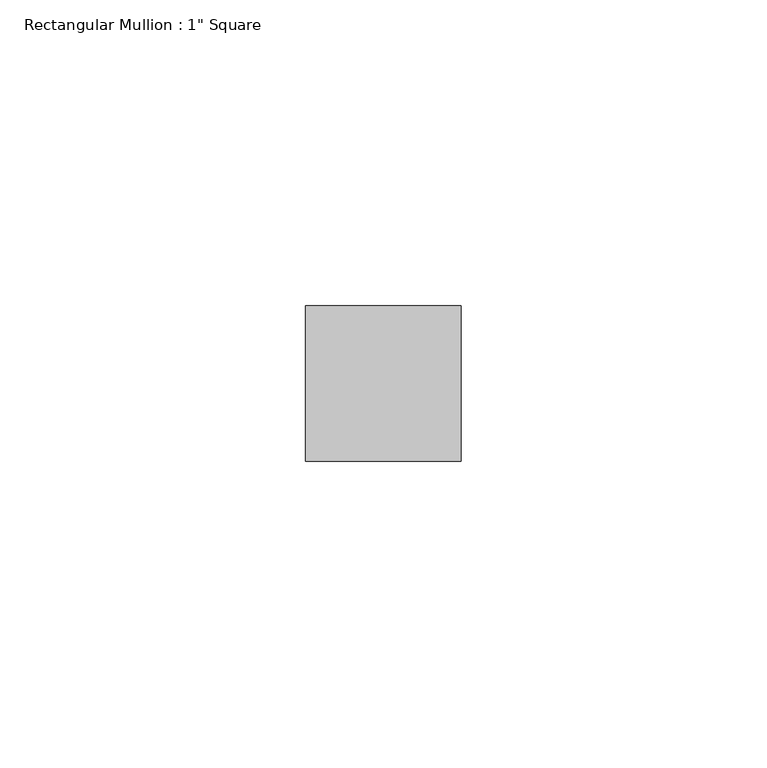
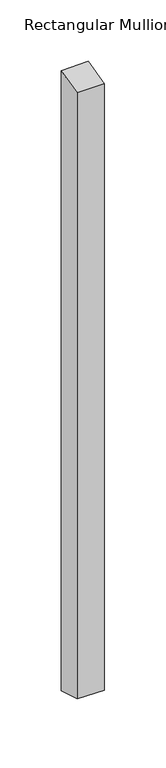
"""IFC4 building model written with IfcOpenShell, lengths in millimetres: member geometry."""

from ifc_helpers import new_model, si_unit, origin, place, context, project, spatial, faceted_brep, source, transform, mapped, element, save


def member_b147afb1(model_context):
    return source(origin(), model_context, "Body", "Brep", [
        faceted_brep([(-25.4, 12.7, 3.0631948), (0.0, 12.7, 3.3384525), (0.0, 12.7, -613.305293), (-25.4, 12.7, -612.999789), (-25.4, -12.7, -3.6137103), (-25.4, -12.7, -605.589203), (0.0, -12.7, -3.3384525), (0.0, -12.7, -605.894707)], [[[0, 1, 2, 3]], [[4, 0, 3, 5]], [[6, 4, 5, 7]], [[1, 6, 7, 2]], [[1, 0, 4, 6]], [[2, 7, 5, 3]]]),
    ])


if __name__ == "__main__":
    model = new_model("IFC4")
    model_context = context("Model", 3, world=origin())
    ifc_project = project(units=[si_unit("LENGTHUNIT", "METRE", prefix="MILLI")], contexts=[model_context])
    site = spatial("IfcSite", under=ifc_project)
    building = spatial("IfcBuilding", under=site)
    placement = place(None, origin())
    member_shape = member_b147afb1(model_context)
    element("IfcMember", 1, ObjectType="Rectangular Mullion : 1\" Square", at=placement, inside=building, context=model_context, shape_type="MappedRepresentation", body=[
        mapped(member_shape, transform((0.0, 0.0, 0.0), x_axis=(1.0, 0.0, 0.0), y_axis=(0.0, 1.0, 0.0), z_axis=(0.0, 0.0, 1.0))),
    ])
    save(model, "model.ifc")
